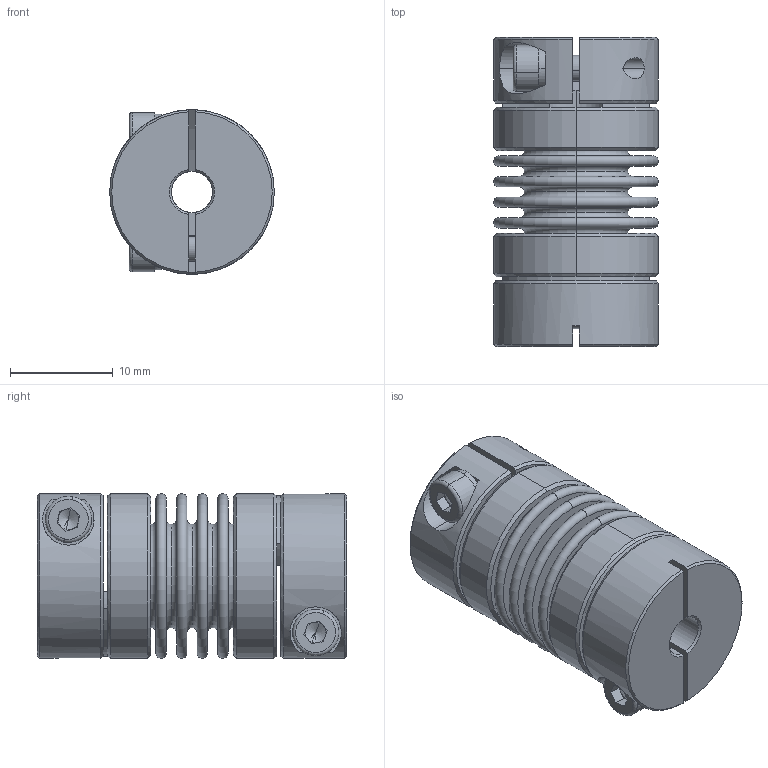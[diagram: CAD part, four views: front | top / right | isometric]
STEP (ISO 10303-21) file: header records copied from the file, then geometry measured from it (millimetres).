
FILE_DESCRIPTION (( 'STEP AP203' ), '1' );
FILE_NAME ('LB-B-D16L30-4-6.STEP', '2021-11-04T01:12:08', ( '' ), ( '' ), 'SwSTEP 2.0', 'SolidWorks 2018', '' );
FILE_SCHEMA (( 'CONFIG_CONTROL_DESIGN' ));
Length unit declared in the file: millimetre
Products named in the file (2): 零件1^LB-B-D16L30 波纹管联轴器-组装体; LB-B-D16L30-4-6
Assembly tree (1 placements, depth 2):
  LB-B-D16L30-4-6
    零件1^LB-B-D16L30 波纹管联轴器-组装体
Bounding box: 16 x 30.04 x 16 mm (x, y, z)
Volume: 3264.1 mm3; surface area: 6463.8 mm2
Topology: 1 solids, 1 shells, 254 faces, 586 edges, 362 vertices
Faces by surface type: plane 86, torus 68, cylinder 66, cone 34
Entity records: 7660 total; most frequent: CARTESIAN_POINT 1472, DIRECTION 1420, ORIENTED_EDGE 1164, AXIS2_PLACEMENT_3D 622, EDGE_CURVE 582, CIRCLE 364, VERTEX_POINT 362, EDGE_LOOP 296
